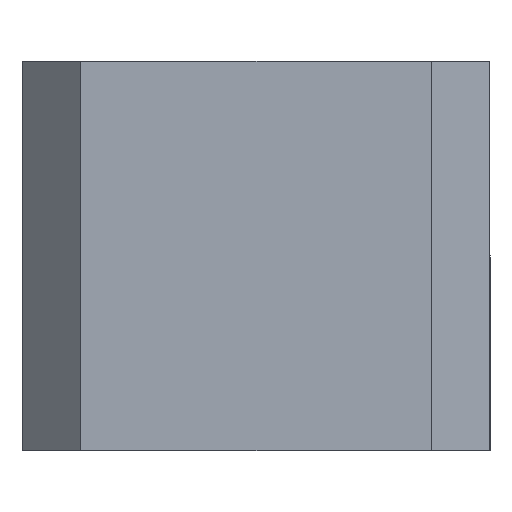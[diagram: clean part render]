
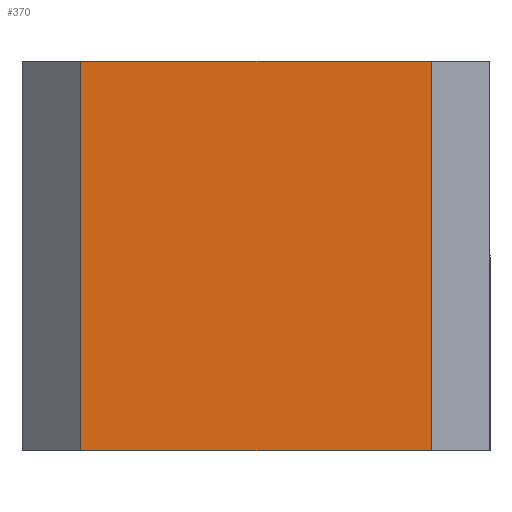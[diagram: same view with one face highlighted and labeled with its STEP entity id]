
A CAD part, left-side view. The second image highlights one B-rep face of the part: STEP entity #370.
In plain terms, the highlighted planar face has unit normal (-1, 0, 0).
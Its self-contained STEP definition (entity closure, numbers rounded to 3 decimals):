
#27 = VERTEX_POINT ( 'NONE', #262 ) ;
#46 = EDGE_CURVE ( 'NONE', #243, #603, #290, .T. ) ;
#52 = AXIS2_PLACEMENT_3D ( 'NONE', #546, #170, #526 ) ;
#133 = ORIENTED_EDGE ( 'NONE', *, *, #642, .T. ) ;
#135 = CARTESIAN_POINT ( 'NONE',  ( 0., -1.5, -5. ) ) ;
#143 = CARTESIAN_POINT ( 'NONE',  ( 0., -10.5, -10. ) ) ;
#144 = DIRECTION ( 'NONE',  ( 0., 0., -1. ) ) ;
#170 = DIRECTION ( 'NONE',  ( -1., 0., 0. ) ) ;
#186 = VECTOR ( 'NONE', #363, 1000. ) ;
#188 = LINE ( 'NONE', #135, #341 ) ;
#243 = VERTEX_POINT ( 'NONE', #319 ) ;
#252 = VERTEX_POINT ( 'NONE', #361 ) ;
#262 = CARTESIAN_POINT ( 'NONE',  ( 0., -10.5, 0. ) ) ;
#271 = CARTESIAN_POINT ( 'NONE',  ( 0., -6., -10. ) ) ;
#290 = LINE ( 'NONE', #271, #649 ) ;
#319 = CARTESIAN_POINT ( 'NONE',  ( 0., -1.5, -10. ) ) ;
#341 = VECTOR ( 'NONE', #144, 1000. ) ;
#354 = CARTESIAN_POINT ( 'NONE',  ( 0., -6., 0. ) ) ;
#361 = CARTESIAN_POINT ( 'NONE',  ( 0., -1.5, 0. ) ) ;
#362 = EDGE_CURVE ( 'NONE', #252, #27, #513, .T. ) ;
#363 = DIRECTION ( 'NONE',  ( 0., -1., 0. ) ) ;
#370 = ADVANCED_FACE ( 'NONE', ( #446 ), #552, .T. ) ;
#404 = ORIENTED_EDGE ( 'NONE', *, *, #502, .T. ) ;
#446 = FACE_OUTER_BOUND ( 'NONE', #529, .T. ) ;
#467 = VECTOR ( 'NONE', #558, 1000. ) ;
#502 = EDGE_CURVE ( 'NONE', #603, #27, #656, .T. ) ;
#513 = LINE ( 'NONE', #354, #186 ) ;
#522 = CARTESIAN_POINT ( 'NONE',  ( 0., -10.5, -5. ) ) ;
#526 = DIRECTION ( 'NONE',  ( 0., 0., 1. ) ) ;
#529 = EDGE_LOOP ( 'NONE', ( #631, #404, #622, #133 ) ) ;
#546 = CARTESIAN_POINT ( 'NONE',  ( 0., -10.5, -10. ) ) ;
#552 = PLANE ( 'NONE',  #52 ) ;
#558 = DIRECTION ( 'NONE',  ( 0., 0., 1. ) ) ;
#603 = VERTEX_POINT ( 'NONE', #143 ) ;
#622 = ORIENTED_EDGE ( 'NONE', *, *, #362, .F. ) ;
#631 = ORIENTED_EDGE ( 'NONE', *, *, #46, .T. ) ;
#642 = EDGE_CURVE ( 'NONE', #252, #243, #188, .T. ) ;
#649 = VECTOR ( 'NONE', #651, 1000. ) ;
#651 = DIRECTION ( 'NONE',  ( 0., -1., 0. ) ) ;
#656 = LINE ( 'NONE', #522, #467 ) ;
